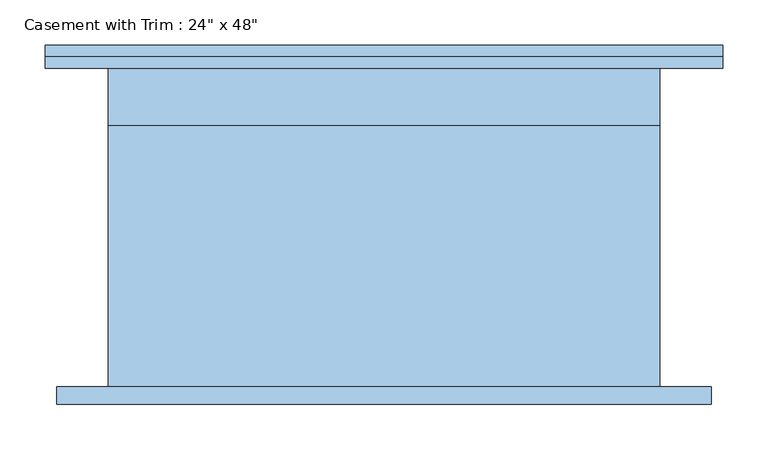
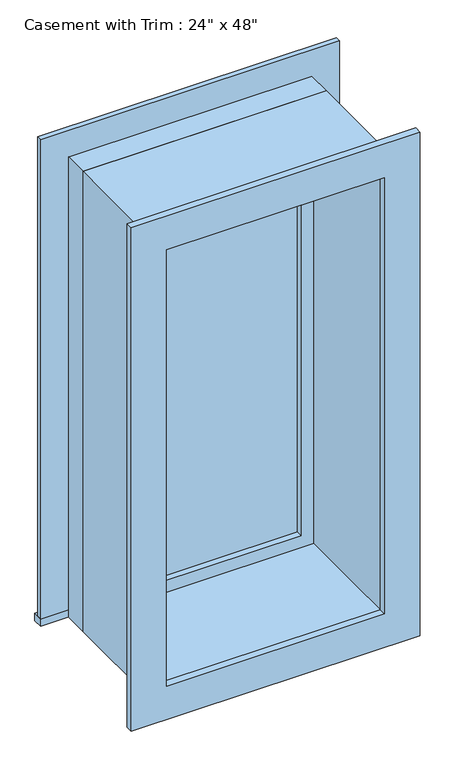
"""IFC4 building model written with IfcOpenShell, lengths in millimetres: window geometry."""

from ifc_helpers import new_model, si_unit, frame, origin, place, context, project, spatial, polyline, outline, extrude, source, transform, mapped, element, save


def window_ed008871(model_context):
    return source(origin(), model_context, "Body", "SweptSolid", [
        extrude(outline(polyline([(-374.65, 201.6125), (374.65, 201.6125), (374.65, 176.2125), (-374.65, 176.2125), (-374.65, 201.6125)])), frame((0.0, 0.0, 914.4), z_axis=(0.0, 0.0, 1.0), x_axis=(1.0, 0.0, 0.0)), (0.0, 0.0, 1.0), 19.05),
        extrude(outline(polyline([(2114.55, -285.75), (2114.55, 285.75), (933.45, 285.75), (933.45, 374.65), (2203.45, 374.65), (2203.45, -374.65), (933.45, -374.65), (933.45, -285.75), (2114.55, -285.75)])), frame((0.0, 176.2125, 0.0), z_axis=(0.0, 1.0, 0.0), x_axis=(0.0, 0.0, 1.0)), (0.0, 0.0, 1.0), 12.7),
        extrude(outline(polyline([(2190.75, 361.95), (2190.75, -361.95), (857.25, -361.95), (857.25, 361.95), (2190.75, 361.95)]), holes=[polyline([(2101.85, 273.05), (946.15, 273.05), (946.15, -273.05), (2101.85, -273.05), (2101.85, 273.05)])]), frame((0.0, -195.2625, 0.0), z_axis=(0.0, 1.0, 0.0), x_axis=(0.0, 0.0, 1.0)), (0.0, 0.0, 1.0), 19.05),
        extrude(outline(polyline([(241.3, 128.5875), (-241.3, 128.5875), (-241.3, 141.2875), (241.3, 141.2875), (241.3, 128.5875)])), frame((0.0, 0.0, 977.9), z_axis=(0.0, 0.0, 1.0), x_axis=(1.0, 0.0, 0.0)), (0.0, 0.0, 1.0), 1092.2),
        extrude(outline(polyline([(2114.55, -285.75), (933.45, -285.75), (933.45, 285.75), (2114.55, 285.75), (2114.55, -285.75)]), holes=[polyline([(2070.1, -241.3), (2070.1, 241.3), (977.9, 241.3), (977.9, -241.3), (2070.1, -241.3)])]), frame((0.0, 112.7125, 0.0), z_axis=(0.0, 1.0, 0.0), x_axis=(0.0, 0.0, 1.0)), (0.0, 0.0, 1.0), 44.45),
        extrude(outline(polyline([(2133.6, -304.8), (914.4, -304.8), (914.4, 304.8), (2133.6, 304.8), (2133.6, -304.8)]), holes=[polyline([(2101.85, -273.05), (2101.85, 273.05), (946.15, 273.05), (946.15, -273.05), (2101.85, -273.05)])]), frame((0.0, -176.2125, 0.0), z_axis=(0.0, 1.0, 0.0), x_axis=(0.0, 0.0, 1.0)), (0.0, 0.0, 1.0), 288.925),
        extrude(outline(polyline([(2133.6, 304.8), (2133.6, -304.8), (914.4, -304.8), (914.4, 304.8), (2133.6, 304.8)]), holes=[polyline([(2114.55, 285.75), (933.45, 285.75), (933.45, -285.75), (2114.55, -285.75), (2114.55, 285.75)])]), frame((0.0, 112.7125, 0.0), z_axis=(0.0, 1.0, 0.0), x_axis=(0.0, 0.0, 1.0)), (0.0, 0.0, 1.0), 63.5),
    ])


if __name__ == "__main__":
    model = new_model("IFC4")
    model_context = context("Model", 3, world=origin())
    ifc_project = project(units=[si_unit("LENGTHUNIT", "METRE", prefix="MILLI")], contexts=[model_context])
    site = spatial("IfcSite", under=ifc_project)
    building = spatial("IfcBuilding", under=site)
    placement = place(None, origin())
    window_shape = window_ed008871(model_context)
    element("IfcWindow", 1, ObjectType="Casement with Trim : 24\" x 48\"", at=placement, inside=building, context=model_context, shape_type="MappedRepresentation", body=[
        mapped(window_shape, transform((0.0, 0.0, 0.0), x_axis=(1.0, 0.0, 0.0), y_axis=(0.0, 1.0, 0.0), z_axis=(0.0, 0.0, 1.0))),
    ])
    save(model, "model.ifc")
